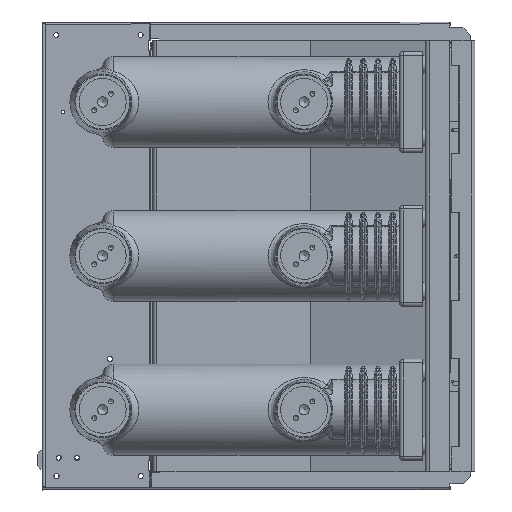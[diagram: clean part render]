
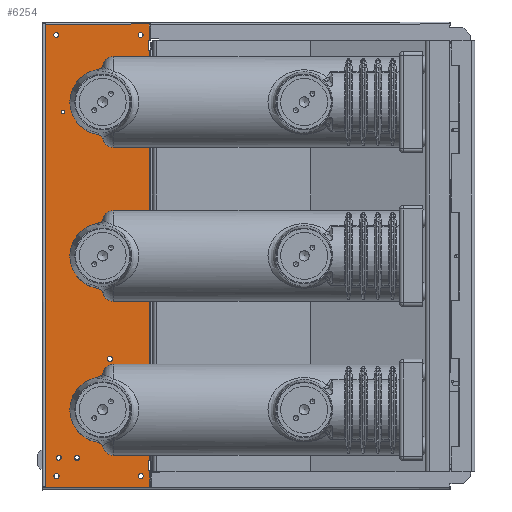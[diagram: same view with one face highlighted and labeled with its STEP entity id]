
A CAD part, left-side view. The second image highlights one B-rep face of the part: STEP entity #6254.
In plain terms, the highlighted planar face has unit normal (-1, 0.006, 0.009).
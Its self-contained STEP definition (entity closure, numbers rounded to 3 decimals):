
#6254=ADVANCED_FACE('',(#18729,#18731,#18733,#18735,#18737,#18739,#18741,#18743,
#18745,#18747),#18749,.F.);
#18729=FACE_BOUND('',#18730,.T.);
#18730=EDGE_LOOP('',(#31281,#31282,#31283,#31284,#31285,#31286,#31287,#31288,#31289,
#31290,#31291,#31292));
#18731=FACE_BOUND('',#18732,.T.);
#18732=EDGE_LOOP('',(#31293));
#18733=FACE_BOUND('',#18734,.T.);
#18734=EDGE_LOOP('',(#31294));
#18735=FACE_BOUND('',#18736,.T.);
#18736=EDGE_LOOP('',(#31295));
#18737=FACE_BOUND('',#18738,.T.);
#18738=EDGE_LOOP('',(#31296));
#18739=FACE_BOUND('',#18740,.T.);
#18740=EDGE_LOOP('',(#31297));
#18741=FACE_BOUND('',#18742,.T.);
#18742=EDGE_LOOP('',(#31298));
#18743=FACE_BOUND('',#18744,.T.);
#18744=EDGE_LOOP('',(#31299));
#18745=FACE_BOUND('',#18746,.T.);
#18746=EDGE_LOOP('',(#31300));
#18747=FACE_BOUND('',#18748,.T.);
#18748=EDGE_LOOP('',(#31301));
#18749=PLANE('',#18750);
#18750=AXIS2_PLACEMENT_3D('',#18751,#18752,#18753);
#18751=CARTESIAN_POINT('',(-85.671,360.126,-1012.729));
#18752=DIRECTION('',(1.,-0.006,-0.009));
#18753=DIRECTION('',(-0.006,-1.,0.));
#31281=ORIENTED_EDGE('',*,*,#35391,.F.);
#31282=ORIENTED_EDGE('',*,*,#35411,.T.);
#31283=ORIENTED_EDGE('',*,*,#35383,.T.);
#31284=ORIENTED_EDGE('',*,*,#35377,.T.);
#31285=ORIENTED_EDGE('',*,*,#35412,.T.);
#31286=ORIENTED_EDGE('',*,*,#35413,.T.);
#31287=ORIENTED_EDGE('',*,*,#35414,.T.);
#31288=ORIENTED_EDGE('',*,*,#35415,.F.);
#31289=ORIENTED_EDGE('',*,*,#35099,.F.);
#31290=ORIENTED_EDGE('',*,*,#35410,.T.);
#31291=ORIENTED_EDGE('',*,*,#35404,.F.);
#31292=ORIENTED_EDGE('',*,*,#35393,.F.);
#31293=ORIENTED_EDGE('',*,*,#35416,.T.);
#31294=ORIENTED_EDGE('',*,*,#35417,.T.);
#31295=ORIENTED_EDGE('',*,*,#35407,.F.);
#31296=ORIENTED_EDGE('',*,*,#35408,.F.);
#31297=ORIENTED_EDGE('',*,*,#35418,.T.);
#31298=ORIENTED_EDGE('',*,*,#35419,.T.);
#31299=ORIENTED_EDGE('',*,*,#35403,.T.);
#31300=ORIENTED_EDGE('',*,*,#35402,.T.);
#31301=ORIENTED_EDGE('',*,*,#35401,.T.);
#35099=EDGE_CURVE('',#39167,#39169,#39170,.T.);
#35377=EDGE_CURVE('',#39600,#39598,#39601,.T.);
#35383=EDGE_CURVE('',#39611,#39600,#39612,.T.);
#35391=EDGE_CURVE('',#39623,#39625,#39626,.T.);
#35393=EDGE_CURVE('',#39625,#39628,#39629,.T.);
#35401=EDGE_CURVE('',#39641,#39641,#39642,.T.);
#35402=EDGE_CURVE('',#39643,#39643,#39644,.T.);
#35403=EDGE_CURVE('',#39645,#39645,#39646,.T.);
#35404=EDGE_CURVE('',#39628,#39647,#39648,.T.);
#35407=EDGE_CURVE('',#39652,#39652,#39653,.T.);
#35408=EDGE_CURVE('',#39654,#39654,#39655,.T.);
#35410=EDGE_CURVE('',#39167,#39647,#39657,.T.);
#35411=EDGE_CURVE('',#39623,#39611,#39658,.T.);
#35412=EDGE_CURVE('',#39598,#39659,#39660,.T.);
#35413=EDGE_CURVE('',#39659,#39661,#39662,.T.);
#35414=EDGE_CURVE('',#39661,#39663,#39664,.T.);
#35415=EDGE_CURVE('',#39169,#39663,#39665,.T.);
#35416=EDGE_CURVE('',#39666,#39666,#39667,.T.);
#35417=EDGE_CURVE('',#39668,#39668,#39669,.T.);
#35418=EDGE_CURVE('',#39670,#39670,#39671,.T.);
#35419=EDGE_CURVE('',#39672,#39672,#39673,.T.);
#39167=VERTEX_POINT('',#56048);
#39169=VERTEX_POINT('',#56053);
#39170=LINE('',#56054,#56055);
#39598=VERTEX_POINT('',#59011);
#39600=VERTEX_POINT('',#59015);
#39601=LINE('',#59016,#59017);
#39611=VERTEX_POINT('',#59039);
#39612=LINE('',#59040,#59041);
#39623=VERTEX_POINT('',#59067);
#39625=VERTEX_POINT('',#59072);
#39626=LINE('',#59073,#59074);
#39628=VERTEX_POINT('',#59079);
#39629=LINE('',#59080,#59081);
#39641=VERTEX_POINT('',#59108);
#39642=CIRCLE('',#59109,2.5);
#39643=VERTEX_POINT('',#59113);
#39644=CIRCLE('',#59114,2.5);
#39645=VERTEX_POINT('',#59118);
#39646=CIRCLE('',#59119,3.5);
#39647=VERTEX_POINT('',#59123);
#39648=LINE('',#59124,#59125);
#39652=VERTEX_POINT('',#59135);
#39653=CIRCLE('',#59136,3.5);
#39654=VERTEX_POINT('',#59140);
#39655=CIRCLE('',#59141,3.5);
#39657=LINE('',#59148,#59149);
#39658=LINE('',#59151,#59152);
#39659=VERTEX_POINT('',#59154);
#39660=LINE('',#59155,#59156);
#39661=VERTEX_POINT('',#59158);
#39662=LINE('',#59159,#59160);
#39663=VERTEX_POINT('',#59162);
#39664=LINE('',#59163,#59164);
#39665=LINE('',#59166,#59167);
#39666=VERTEX_POINT('',#59169);
#39667=CIRCLE('',#59170,3.5);
#39668=VERTEX_POINT('',#59174);
#39669=CIRCLE('',#59175,3.5);
#39670=VERTEX_POINT('',#59179);
#39671=CIRCLE('',#59180,3.5);
#39672=VERTEX_POINT('',#59184);
#39673=CIRCLE('',#59185,3.5);
#56048=CARTESIAN_POINT('',(-86.533,218.129,-1012.663));
#56053=CARTESIAN_POINT('',(-85.671,360.126,-1012.729));
#56054=CARTESIAN_POINT('',(-86.533,218.129,-1012.663));
#56055=VECTOR('',#56056,1.);
#56056=DIRECTION('',(0.006,1.,0.));
#59011=CARTESIAN_POINT('',(-80.868,219.377,-402.69));
#59015=CARTESIAN_POINT('',(-80.998,219.371,-416.689));
#59016=CARTESIAN_POINT('',(-80.998,219.371,-416.689));
#59017=VECTOR('',#59018,1.);
#59018=DIRECTION('',(0.009,0.,1.));
#59039=CARTESIAN_POINT('',(-81.004,218.371,-416.689));
#59040=CARTESIAN_POINT('',(-81.004,218.371,-416.689));
#59041=VECTOR('',#59042,1.);
#59042=DIRECTION('',(0.006,1.,0.));
#59067=CARTESIAN_POINT('',(-86.199,218.144,-976.665));
#59072=CARTESIAN_POINT('',(-86.193,219.144,-976.665));
#59073=CARTESIAN_POINT('',(-86.199,218.144,-976.665));
#59074=VECTOR('',#59075,1.);
#59075=DIRECTION('',(0.006,1.,0.));
#59079=CARTESIAN_POINT('',(-86.322,219.138,-990.665));
#59080=CARTESIAN_POINT('',(-86.193,219.144,-976.665));
#59081=VECTOR('',#59082,1.);
#59082=DIRECTION('',(-0.009,0.,-1.));
#59108=CARTESIAN_POINT('',(-81.309,300.334,-503.223));
#59109=AXIS2_PLACEMENT_3D('',#59110,#59111,#59112);
#59110=CARTESIAN_POINT('',(-81.286,300.335,-500.723));
#59111=DIRECTION('',(1.,-0.006,-0.009));
#59112=DIRECTION('',(-0.009,0.,-1.));
#59113=CARTESIAN_POINT('',(-81.09,336.334,-503.24));
#59114=AXIS2_PLACEMENT_3D('',#59115,#59116,#59117);
#59115=CARTESIAN_POINT('',(-81.067,336.335,-500.74));
#59116=DIRECTION('',(1.,-0.006,-0.009));
#59117=DIRECTION('',(-0.009,0.,-1.));
#59118=CARTESIAN_POINT('',(-84.614,272.198,-841.196));
#59119=AXIS2_PLACEMENT_3D('',#59120,#59121,#59122);
#59120=CARTESIAN_POINT('',(-84.582,272.199,-837.696));
#59121=DIRECTION('',(1.,-0.006,-0.009));
#59122=DIRECTION('',(-0.009,0.,-1.));
#59123=CARTESIAN_POINT('',(-86.329,218.138,-990.664));
#59124=CARTESIAN_POINT('',(-86.322,219.138,-990.665));
#59125=VECTOR('',#59126,1.);
#59126=DIRECTION('',(-0.006,-1.,0.));
#59135=CARTESIAN_POINT('',(-86.353,230.133,-1001.169));
#59136=AXIS2_PLACEMENT_3D('',#59137,#59138,#59139);
#59137=CARTESIAN_POINT('',(-86.321,230.135,-997.67));
#59138=DIRECTION('',(-1.,0.006,0.009));
#59139=DIRECTION('',(-0.009,0.,-1.));
#59140=CARTESIAN_POINT('',(-85.655,345.131,-1001.223));
#59141=AXIS2_PLACEMENT_3D('',#59142,#59143,#59144);
#59142=CARTESIAN_POINT('',(-85.623,345.133,-997.723));
#59143=DIRECTION('',(-1.,0.006,0.009));
#59144=DIRECTION('',(-0.009,0.,-1.));
#59148=CARTESIAN_POINT('',(-86.533,218.129,-1012.663));
#59149=VECTOR('',#59150,1.);
#59150=DIRECTION('',(0.009,0.,1.));
#59151=CARTESIAN_POINT('',(-86.199,218.144,-976.665));
#59152=VECTOR('',#59153,1.);
#59153=DIRECTION('',(0.009,0.,1.));
#59154=CARTESIAN_POINT('',(-80.875,218.377,-402.69));
#59155=CARTESIAN_POINT('',(-80.868,219.377,-402.69));
#59156=VECTOR('',#59157,1.);
#59157=DIRECTION('',(-0.006,-1.,0.));
#59158=CARTESIAN_POINT('',(-80.67,218.386,-380.691));
#59159=CARTESIAN_POINT('',(-80.875,218.377,-402.69));
#59160=VECTOR('',#59161,1.);
#59161=DIRECTION('',(0.009,0.,1.));
#59162=CARTESIAN_POINT('',(-79.809,360.383,-380.756));
#59163=CARTESIAN_POINT('',(-80.67,218.386,-380.691));
#59164=VECTOR('',#59165,1.);
#59165=DIRECTION('',(0.006,1.,0.));
#59166=CARTESIAN_POINT('',(-85.671,360.126,-1012.729));
#59167=VECTOR('',#59168,1.);
#59168=DIRECTION('',(0.009,0.,1.));
#59169=CARTESIAN_POINT('',(-85.593,317.142,-976.211));
#59170=AXIS2_PLACEMENT_3D('',#59171,#59172,#59173);
#59171=CARTESIAN_POINT('',(-85.561,317.143,-972.711));
#59172=DIRECTION('',(1.,-0.006,-0.009));
#59173=DIRECTION('',(-0.009,0.,-1.));
#59174=CARTESIAN_POINT('',(-85.441,342.141,-976.222));
#59175=AXIS2_PLACEMENT_3D('',#59176,#59177,#59178);
#59176=CARTESIAN_POINT('',(-85.409,342.143,-972.722));
#59177=DIRECTION('',(1.,-0.006,-0.009));
#59178=DIRECTION('',(-0.009,0.,-1.));
#59179=CARTESIAN_POINT('',(-80.071,345.376,-399.248));
#59180=AXIS2_PLACEMENT_3D('',#59181,#59182,#59183);
#59181=CARTESIAN_POINT('',(-80.039,345.377,-395.749));
#59182=DIRECTION('',(1.,-0.006,-0.009));
#59183=DIRECTION('',(-0.009,0.,-1.));
#59184=CARTESIAN_POINT('',(-80.769,230.378,-399.195));
#59185=AXIS2_PLACEMENT_3D('',#59186,#59187,#59188);
#59186=CARTESIAN_POINT('',(-80.737,230.379,-395.695));
#59187=DIRECTION('',(1.,-0.006,-0.009));
#59188=DIRECTION('',(-0.009,0.,-1.));
